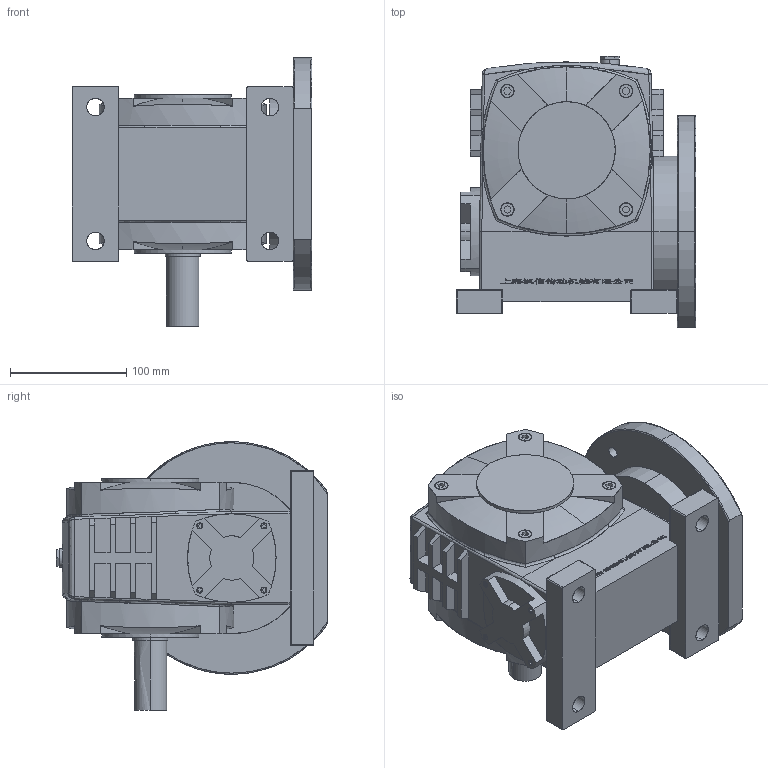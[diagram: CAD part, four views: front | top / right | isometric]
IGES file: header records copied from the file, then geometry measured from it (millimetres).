
Start section: SolidWorks IGES file using analytic representation for surfaces
Global section: file name: F:\3D芞祧\眒俇傖\WPDA70.IGS; native system: SolidWorks 2014; preprocessor: SolidWorks 2014; author: xing; date: 161023.113153; units: millimetre
Bounding box: 206 x 233.5 x 231 mm (x, y, z)
Surface area: 288951.9 mm2 (no closed solid volume)
Topology: 0 solids, 0 shells, 1163 faces, 12805 edges, 12793 vertices
Faces by surface type: bspline 962, revolution 201
